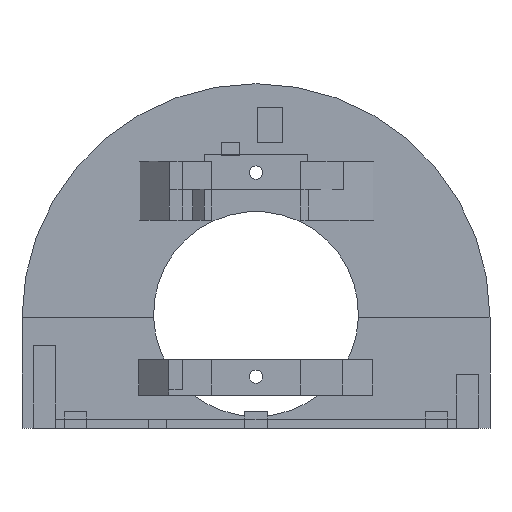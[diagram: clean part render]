
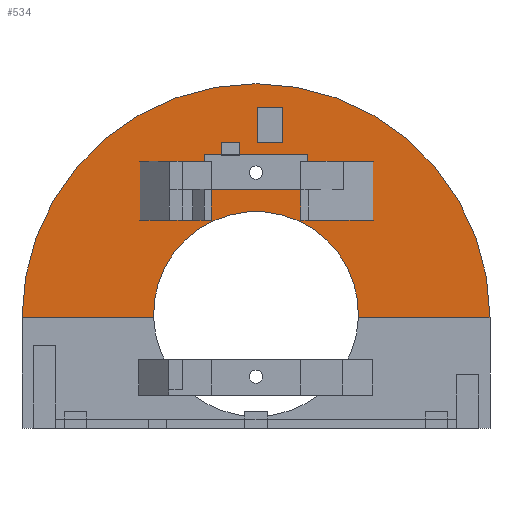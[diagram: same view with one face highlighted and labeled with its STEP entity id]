
A CAD part, left-side view. The second image highlights one B-rep face of the part: STEP entity #534.
In plain terms, the highlighted planar face has unit normal (-1, 0, 0).
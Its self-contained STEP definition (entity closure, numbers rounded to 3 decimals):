
#83 = PLANE('',#84);
#84 = AXIS2_PLACEMENT_3D('',#85,#86,#87);
#85 = CARTESIAN_POINT('',(37.75,0.25,17.));
#86 = DIRECTION('',(1.,0.,0.));
#87 = DIRECTION('',(0.,0.,1.));
#181 = VERTEX_POINT('',#182);
#182 = CARTESIAN_POINT('',(37.75,0.25,32.));
#205 = VERTEX_POINT('',#206);
#206 = CARTESIAN_POINT('',(37.75,63.75,32.));
#227 = EDGE_CURVE('',#228,#205,#230,.T.);
#228 = VERTEX_POINT('',#229);
#229 = CARTESIAN_POINT('',(37.75,45.891,32.));
#230 = SURFACE_CURVE('',#231,(#235,#242),.PCURVE_S1.);
#231 = LINE('',#232,#233);
#232 = CARTESIAN_POINT('',(37.75,0.25,32.));
#233 = VECTOR('',#234,1.);
#234 = DIRECTION('',(0.,1.,0.));
#235 = PCURVE('',#83,#236);
#236 = DEFINITIONAL_REPRESENTATION('',(#237),#241);
#237 = LINE('',#238,#239);
#238 = CARTESIAN_POINT('',(15.,0.));
#239 = VECTOR('',#240,1.);
#240 = DIRECTION('',(0.,-1.));
#241 = ( GEOMETRIC_REPRESENTATION_CONTEXT(2) 
PARAMETRIC_REPRESENTATION_CONTEXT() REPRESENTATION_CONTEXT('2D SPACE',''
  ) );
#242 = PCURVE('',#243,#248);
#243 = PLANE('',#244);
#244 = AXIS2_PLACEMENT_3D('',#245,#246,#247);
#245 = CARTESIAN_POINT('',(37.75,32.,32.));
#246 = DIRECTION('',(1.,0.,0.));
#247 = DIRECTION('',(0.,1.,0.));
#248 = DEFINITIONAL_REPRESENTATION('',(#249),#253);
#249 = LINE('',#250,#251);
#250 = CARTESIAN_POINT('',(-31.75,0.));
#251 = VECTOR('',#252,1.);
#252 = DIRECTION('',(1.,0.));
#253 = ( GEOMETRIC_REPRESENTATION_CONTEXT(2) 
PARAMETRIC_REPRESENTATION_CONTEXT() REPRESENTATION_CONTEXT('2D SPACE',''
  ) );
#272 = CYLINDRICAL_SURFACE('',#273,13.9);
#273 = AXIS2_PLACEMENT_3D('',#274,#275,#276);
#274 = CARTESIAN_POINT('',(36.,32.,32.5));
#275 = DIRECTION('',(1.,0.,0.));
#276 = DIRECTION('',(0.,0.,-1.));
#285 = VERTEX_POINT('',#286);
#286 = CARTESIAN_POINT('',(37.75,18.109,32.));
#308 = EDGE_CURVE('',#181,#285,#309,.T.);
#309 = SURFACE_CURVE('',#310,(#314,#321),.PCURVE_S1.);
#310 = LINE('',#311,#312);
#311 = CARTESIAN_POINT('',(37.75,0.25,32.));
#312 = VECTOR('',#313,1.);
#313 = DIRECTION('',(0.,1.,0.));
#314 = PCURVE('',#83,#315);
#315 = DEFINITIONAL_REPRESENTATION('',(#316),#320);
#316 = LINE('',#317,#318);
#317 = CARTESIAN_POINT('',(15.,0.));
#318 = VECTOR('',#319,1.);
#319 = DIRECTION('',(0.,-1.));
#320 = ( GEOMETRIC_REPRESENTATION_CONTEXT(2) 
PARAMETRIC_REPRESENTATION_CONTEXT() REPRESENTATION_CONTEXT('2D SPACE',''
  ) );
#321 = PCURVE('',#243,#322);
#322 = DEFINITIONAL_REPRESENTATION('',(#323),#327);
#323 = LINE('',#324,#325);
#324 = CARTESIAN_POINT('',(-31.75,0.));
#325 = VECTOR('',#326,1.);
#326 = DIRECTION('',(1.,0.));
#327 = ( GEOMETRIC_REPRESENTATION_CONTEXT(2) 
PARAMETRIC_REPRESENTATION_CONTEXT() REPRESENTATION_CONTEXT('2D SPACE',''
  ) );
#350 = CYLINDRICAL_SURFACE('',#351,31.75);
#351 = AXIS2_PLACEMENT_3D('',#352,#353,#354);
#352 = CARTESIAN_POINT('',(37.75,32.,32.));
#353 = DIRECTION('',(1.,0.,0.));
#354 = DIRECTION('',(0.,1.,0.));
#534 = ADVANCED_FACE('',(#535,#583),#243,.F.);
#535 = FACE_BOUND('',#536,.F.);
#536 = EDGE_LOOP('',(#537,#538,#560,#561));
#537 = ORIENTED_EDGE('',*,*,#227,.T.);
#538 = ORIENTED_EDGE('',*,*,#539,.T.);
#539 = EDGE_CURVE('',#205,#181,#540,.T.);
#540 = SURFACE_CURVE('',#541,(#546,#553),.PCURVE_S1.);
#541 = CIRCLE('',#542,31.75);
#542 = AXIS2_PLACEMENT_3D('',#543,#544,#545);
#543 = CARTESIAN_POINT('',(37.75,32.,32.));
#544 = DIRECTION('',(1.,0.,0.));
#545 = DIRECTION('',(0.,1.,0.));
#546 = PCURVE('',#243,#547);
#547 = DEFINITIONAL_REPRESENTATION('',(#548),#552);
#548 = CIRCLE('',#549,31.75);
#549 = AXIS2_PLACEMENT_2D('',#550,#551);
#550 = CARTESIAN_POINT('',(0.,0.));
#551 = DIRECTION('',(1.,0.));
#552 = ( GEOMETRIC_REPRESENTATION_CONTEXT(2) 
PARAMETRIC_REPRESENTATION_CONTEXT() REPRESENTATION_CONTEXT('2D SPACE',''
  ) );
#553 = PCURVE('',#350,#554);
#554 = DEFINITIONAL_REPRESENTATION('',(#555),#559);
#555 = LINE('',#556,#557);
#556 = CARTESIAN_POINT('',(0.,0.));
#557 = VECTOR('',#558,1.);
#558 = DIRECTION('',(1.,0.));
#559 = ( GEOMETRIC_REPRESENTATION_CONTEXT(2) 
PARAMETRIC_REPRESENTATION_CONTEXT() REPRESENTATION_CONTEXT('2D SPACE',''
  ) );
#560 = ORIENTED_EDGE('',*,*,#308,.T.);
#561 = ORIENTED_EDGE('',*,*,#562,.F.);
#562 = EDGE_CURVE('',#228,#285,#563,.T.);
#563 = SURFACE_CURVE('',#564,(#569,#576),.PCURVE_S1.);
#564 = CIRCLE('',#565,13.9);
#565 = AXIS2_PLACEMENT_3D('',#566,#567,#568);
#566 = CARTESIAN_POINT('',(37.75,32.,32.5));
#567 = DIRECTION('',(1.,-0.,0.));
#568 = DIRECTION('',(0.,0.,-1.));
#569 = PCURVE('',#243,#570);
#570 = DEFINITIONAL_REPRESENTATION('',(#571),#575);
#571 = CIRCLE('',#572,13.9);
#572 = AXIS2_PLACEMENT_2D('',#573,#574);
#573 = CARTESIAN_POINT('',(0.,0.5));
#574 = DIRECTION('',(0.,-1.));
#575 = ( GEOMETRIC_REPRESENTATION_CONTEXT(2) 
PARAMETRIC_REPRESENTATION_CONTEXT() REPRESENTATION_CONTEXT('2D SPACE',''
  ) );
#576 = PCURVE('',#272,#577);
#577 = DEFINITIONAL_REPRESENTATION('',(#578),#582);
#578 = LINE('',#579,#580);
#579 = CARTESIAN_POINT('',(0.,1.75));
#580 = VECTOR('',#581,1.);
#581 = DIRECTION('',(1.,0.));
#582 = ( GEOMETRIC_REPRESENTATION_CONTEXT(2) 
PARAMETRIC_REPRESENTATION_CONTEXT() REPRESENTATION_CONTEXT('2D SPACE',''
  ) );
#583 = FACE_BOUND('',#584,.F.);
#584 = EDGE_LOOP('',(#585));
#585 = ORIENTED_EDGE('',*,*,#586,.F.);
#586 = EDGE_CURVE('',#587,#587,#589,.T.);
#587 = VERTEX_POINT('',#588);
#588 = CARTESIAN_POINT('',(37.75,32.,50.8));
#589 = SURFACE_CURVE('',#590,(#595,#602),.PCURVE_S1.);
#590 = CIRCLE('',#591,0.9);
#591 = AXIS2_PLACEMENT_3D('',#592,#593,#594);
#592 = CARTESIAN_POINT('',(37.75,32.,51.7));
#593 = DIRECTION('',(1.,0.,0.));
#594 = DIRECTION('',(0.,0.,-1.));
#595 = PCURVE('',#243,#596);
#596 = DEFINITIONAL_REPRESENTATION('',(#597),#601);
#597 = CIRCLE('',#598,0.9);
#598 = AXIS2_PLACEMENT_2D('',#599,#600);
#599 = CARTESIAN_POINT('',(0.,19.7));
#600 = DIRECTION('',(0.,-1.));
#601 = ( GEOMETRIC_REPRESENTATION_CONTEXT(2) 
PARAMETRIC_REPRESENTATION_CONTEXT() REPRESENTATION_CONTEXT('2D SPACE',''
  ) );
#602 = PCURVE('',#603,#608);
#603 = CYLINDRICAL_SURFACE('',#604,0.9);
#604 = AXIS2_PLACEMENT_3D('',#605,#606,#607);
#605 = CARTESIAN_POINT('',(33.9,32.,51.7));
#606 = DIRECTION('',(1.,0.,0.));
#607 = DIRECTION('',(0.,0.,-1.));
#608 = DEFINITIONAL_REPRESENTATION('',(#609),#613);
#609 = LINE('',#610,#611);
#610 = CARTESIAN_POINT('',(0.,3.85));
#611 = VECTOR('',#612,1.);
#612 = DIRECTION('',(1.,0.));
#613 = ( GEOMETRIC_REPRESENTATION_CONTEXT(2) 
PARAMETRIC_REPRESENTATION_CONTEXT() REPRESENTATION_CONTEXT('2D SPACE',''
  ) );
